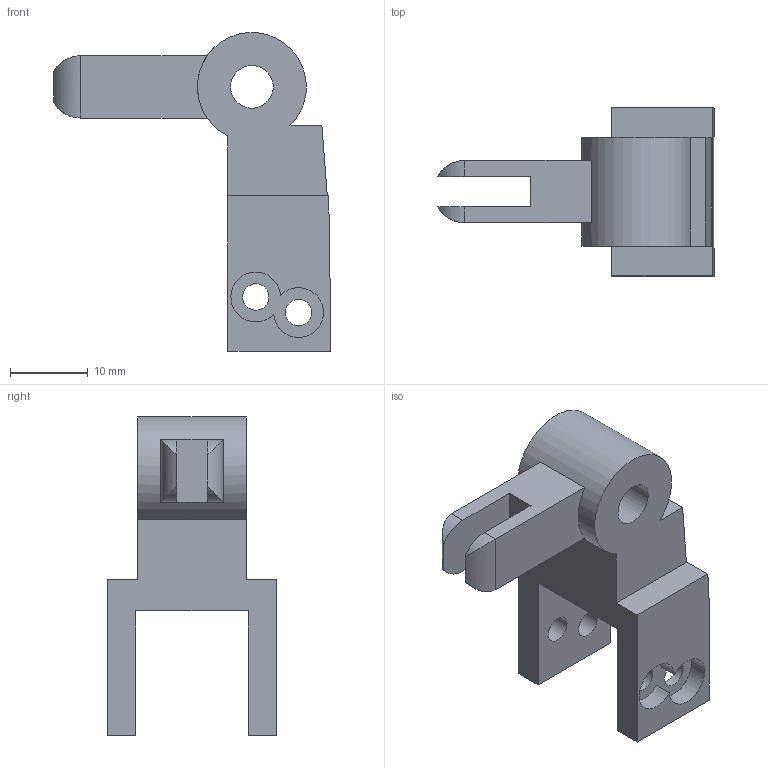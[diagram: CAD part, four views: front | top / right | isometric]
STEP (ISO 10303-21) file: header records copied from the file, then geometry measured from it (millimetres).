
FILE_DESCRIPTION(('Open CASCADE Model'),'2;1');
FILE_NAME('Open CASCADE Shape Model','2026-10-17T22:15:36',('Author'),( 'Open CASCADE'),'Open CASCADE STEP processor 7.9','Open CASCADE 7.9' ,'Unknown');
FILE_SCHEMA(('AUTOMOTIVE_DESIGN { 1 0 10303 214 1 1 1 1 }'));
Length unit declared in the file: millimetre
Products named in the file (1): Open CASCADE STEP translator 7.9 31
Bounding box: 35.6 x 21.6 x 40.98 mm (x, y, z)
Volume: 6405.2 mm3; surface area: 3997.3 mm2
Topology: 1 solids, 1 shells, 40 faces, 104 edges, 68 vertices
Faces by surface type: plane 26, cylinder 14
Full cylindrical faces by diameter (mm): 3.4 x4, 5.5 x1
Entity records: 2650 total; most frequent: CARTESIAN_POINT 633, DIRECTION 346, ORIENTED_EDGE 208, PCURVE 208, DEFINITIONAL_REPRESENTATION 208, LINE 208, VECTOR 208, EDGE_CURVE 104
